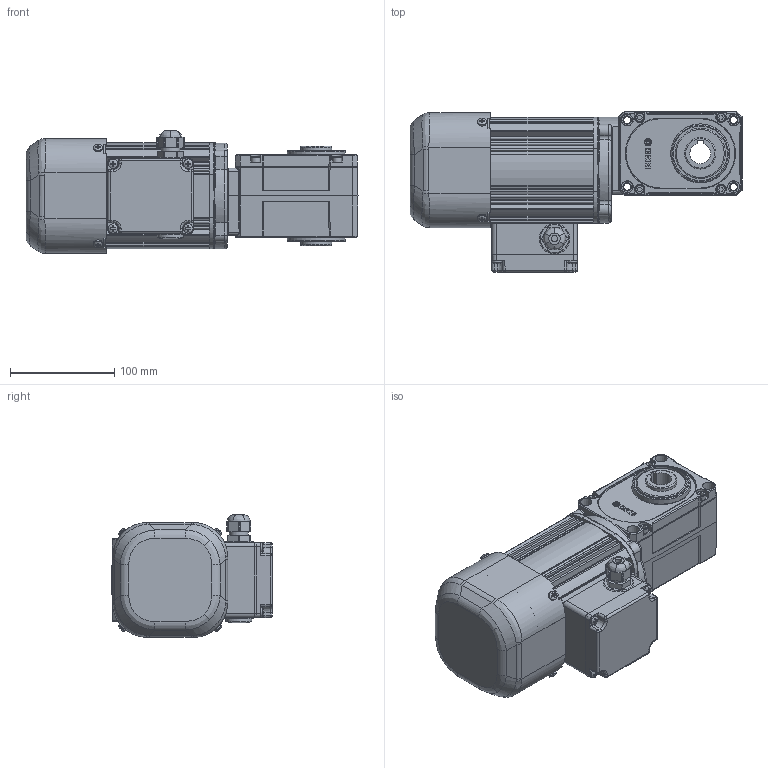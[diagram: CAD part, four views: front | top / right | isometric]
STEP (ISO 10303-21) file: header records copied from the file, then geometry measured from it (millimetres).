
FILE_DESCRIPTION (( 'STEP AP214' ), '1' );
FILE_NAME ('DSY20B-(7.5~30)B020-¤±.STEP', '2025-01-17T05:28:16', ( '' ), ( '' ), 'SwSTEP 2.0', 'SolidWorks 2024', '' );
FILE_SCHEMA (( 'AUTOMOTIVE_DESIGN' ));
Length unit declared in the file: millimetre
Products named in the file (14): 단자박스 마개; DKM 단자대 상부수정도(20200120); DSY02S 감속기; DKM 0.2kW 뒤커버 가공도(20200128); 95 인발프레임 최종가공도(20200128); 프렉시블_표준; 0.2kW 브레이크 팬커버; 0.2KW 브레이크 모터; 단자박스 ASS''Y; DSY20B-(7.5~30)B020-ㅁ; CASE-DSY02S-DC 외형수정; 고무패킹-하; COVER-DSY02S-DC 외형수정; 단자박스 하 수정
Assembly tree (13 placements, depth 3):
  DSY20B-(7.5~30)B020-ㅁ
    DSY02S 감속기
      CASE-DSY02S-DC 외형수정
      COVER-DSY02S-DC 외형수정
    단자박스 ASS''Y
      단자박스 하 수정
      프렉시블_표준
      단자박스 마개
      DKM 단자대 상부수정도(20200120)
      고무패킹-하
    0.2KW 브레이크 모터
      95 인발프레임 최종가공도(20200128)
      DKM 0.2kW 뒤커버 가공도(20200128)
      0.2kW 브레이크 팬커버
Bounding box: 318 x 153.75 x 117.56 mm (x, y, z)
Volume: 2372136.6 mm3; surface area: 334924.6 mm2
Topology: 10 solids, 16 shells, 1504 faces, 3804 edges, 2379 vertices
Faces by surface type: plane 670, cylinder 493, bspline 208, torus 85, cone 28, sphere 20
Full cylindrical faces by diameter (mm): 2.514 x2, 3.318 x2, 3.5 x4, 4.5 x4, 5 x8, 5.3 x4, 5.5 x4, 6 x1, 6.7 x4, 8 x8, 8.5 x8, 9 x4, 10.8 x1, 11 x4, 16.5 x1, 18 x2, 19 x1, 20 x3, 22 x1, 25 x1, 28 x1, 30 x3, 46.111 x1, 48 x2, 52 x2
Entity records: 52904 total; most frequent: CARTESIAN_POINT 18236, ORIENTED_EDGE 7224, DIRECTION 6815, EDGE_CURVE 3612, AXIS2_PLACEMENT_3D 2436, VERTEX_POINT 2348, LINE 1943, VECTOR 1943
